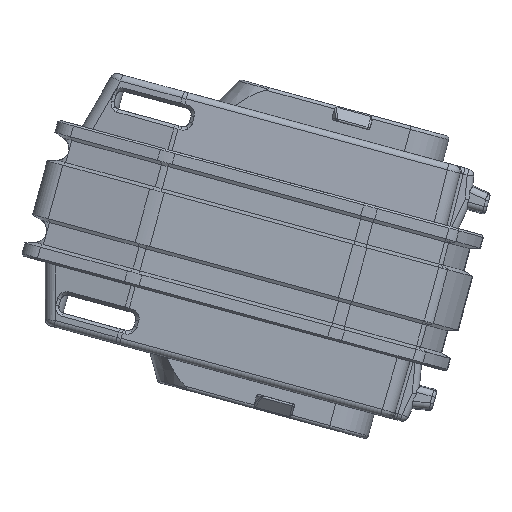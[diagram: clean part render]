
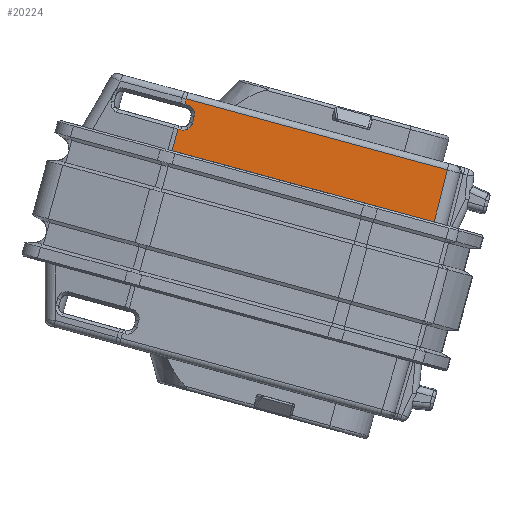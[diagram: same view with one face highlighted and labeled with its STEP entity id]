
A CAD part, front view. The second image highlights one B-rep face of the part: STEP entity #20224.
In plain terms, the highlighted planar face has unit normal (0.005, -1, 0.017).
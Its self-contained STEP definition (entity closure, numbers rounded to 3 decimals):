
#1754=PLANE('',#21533);
#2496=FACE_OUTER_BOUND('',#3774,.T.);
#3774=EDGE_LOOP('',(#15098,#15099,#15100,#15101,#15102,#15103,#15104,#15105,
#15106,#15107,#15108,#15109,#15110,#15111));
#4881=LINE('',#37546,#6433);
#4901=LINE('',#38521,#6453);
#5170=LINE('',#41165,#6722);
#5171=LINE('',#41167,#6723);
#5172=LINE('',#41169,#6724);
#5173=LINE('',#41170,#6725);
#6433=VECTOR('',#23353,10.);
#6453=VECTOR('',#23381,10.);
#6722=VECTOR('',#24256,10.);
#6723=VECTOR('',#24257,1000.);
#6724=VECTOR('',#24258,1000.);
#6725=VECTOR('',#24259,1000.);
#8137=B_SPLINE_CURVE_WITH_KNOTS('',3,(#37335,#37336,#37337,#37338,#37339,
#37340,#37341,#37342),.UNSPECIFIED.,.F.,.F.,(4,2,2,4),(0.076,
0.077,0.114,0.152),.UNSPECIFIED.);
#8143=B_SPLINE_CURVE_WITH_KNOTS('',3,(#37480,#37481,#37482,#37483),
 .UNSPECIFIED.,.F.,.F.,(4,4),(0.152,0.153),
 .UNSPECIFIED.);
#8147=B_SPLINE_CURVE_WITH_KNOTS('',3,(#37536,#37537,#37538,#37539,#37540,
#37541,#37542,#37543),.UNSPECIFIED.,.F.,.F.,(4,2,2,4),(0.076,
0.077,0.114,0.152),.UNSPECIFIED.);
#8148=B_SPLINE_CURVE_WITH_KNOTS('',3,(#37578,#37579,#37580,#37581,#37582,
#37583),.UNSPECIFIED.,.F.,.F.,(4,2,4),(0.,0.022,
0.044),.UNSPECIFIED.);
#8151=B_SPLINE_CURVE_WITH_KNOTS('',3,(#37637,#37638,#37639,#37640,#37641,
#37642,#37643,#37644,#37645),.UNSPECIFIED.,.F.,.F.,(4,1,1,1,1,1,4),(0.,
0.003,0.005,0.011,0.022,
0.033,0.076),.UNSPECIFIED.);
#8165=B_SPLINE_CURVE_WITH_KNOTS('',3,(#38349,#38350,#38351,#38352,#38353,
#38354),.UNSPECIFIED.,.F.,.F.,(4,2,4),(0.001,0.038,
0.076),.UNSPECIFIED.);
#8166=B_SPLINE_CURVE_WITH_KNOTS('',3,(#38381,#38382,#38383,#38384,#38385,
#38386),.UNSPECIFIED.,.F.,.F.,(4,2,4),(-0.044,-0.022,
0.),.UNSPECIFIED.);
#8168=B_SPLINE_CURVE_WITH_KNOTS('',3,(#38407,#38408,#38409,#38410),
 .UNSPECIFIED.,.F.,.F.,(4,4),(0.,0.001),
 .UNSPECIFIED.);
#8711=VERTEX_POINT('',#37328);
#8713=VERTEX_POINT('',#37334);
#8717=VERTEX_POINT('',#37473);
#8719=VERTEX_POINT('',#37479);
#8722=VERTEX_POINT('',#37531);
#8723=VERTEX_POINT('',#37545);
#8726=VERTEX_POINT('',#37575);
#8727=VERTEX_POINT('',#37577);
#8738=VERTEX_POINT('',#38347);
#8739=VERTEX_POINT('',#38379);
#8745=VERTEX_POINT('',#38520);
#9160=VERTEX_POINT('',#41164);
#9161=VERTEX_POINT('',#41166);
#9162=VERTEX_POINT('',#41168);
#10756=EDGE_CURVE('',#8711,#8713,#8137,.T.);
#10765=EDGE_CURVE('',#8717,#8719,#8143,.T.);
#10770=EDGE_CURVE('',#8722,#8717,#8147,.T.);
#10771=EDGE_CURVE('',#8719,#8723,#4881,.T.);
#10775=EDGE_CURVE('',#8726,#8727,#8148,.T.);
#10779=EDGE_CURVE('',#8727,#8722,#8151,.T.);
#10799=EDGE_CURVE('',#8738,#8711,#8165,.T.);
#10801=EDGE_CURVE('',#8713,#8739,#8166,.T.);
#10803=EDGE_CURVE('',#8723,#8738,#8168,.T.);
#10815=EDGE_CURVE('',#8745,#8739,#4901,.T.);
#11334=EDGE_CURVE('',#8726,#9160,#5170,.T.);
#11335=EDGE_CURVE('',#9161,#9160,#5171,.T.);
#11336=EDGE_CURVE('',#9161,#9162,#5172,.T.);
#11337=EDGE_CURVE('',#9162,#8745,#5173,.T.);
#15098=ORIENTED_EDGE('',*,*,#10775,.F.);
#15099=ORIENTED_EDGE('',*,*,#11334,.T.);
#15100=ORIENTED_EDGE('',*,*,#11335,.F.);
#15101=ORIENTED_EDGE('',*,*,#11336,.T.);
#15102=ORIENTED_EDGE('',*,*,#11337,.T.);
#15103=ORIENTED_EDGE('',*,*,#10815,.T.);
#15104=ORIENTED_EDGE('',*,*,#10801,.F.);
#15105=ORIENTED_EDGE('',*,*,#10756,.F.);
#15106=ORIENTED_EDGE('',*,*,#10799,.F.);
#15107=ORIENTED_EDGE('',*,*,#10803,.F.);
#15108=ORIENTED_EDGE('',*,*,#10771,.F.);
#15109=ORIENTED_EDGE('',*,*,#10765,.F.);
#15110=ORIENTED_EDGE('',*,*,#10770,.F.);
#15111=ORIENTED_EDGE('',*,*,#10779,.F.);
#20224=ADVANCED_FACE('',(#2496),#1754,.T.);
#21533=AXIS2_PLACEMENT_3D('',#41163,#24254,#24255);
#23353=DIRECTION('',(0.262,0.017,0.965));
#23381=DIRECTION('',(-0.264,-0.017,-0.964));
#24254=DIRECTION('center_axis',(0.005,-1.,
0.017));
#24255=DIRECTION('ref_axis',(0.,-0.017,-1.));
#24256=DIRECTION('',(-0.264,-0.017,-0.964));
#24257=DIRECTION('',(-0.965,0.,0.262));
#24258=DIRECTION('',(0.245,0.017,0.969));
#24259=DIRECTION('',(-0.965,0.,0.262));
#37328=CARTESIAN_POINT('',(-2.585,-8.979,-175.599));
#37334=CARTESIAN_POINT('',(-3.466,-8.972,-174.917));
#37335=CARTESIAN_POINT('Ctrl Pts',(-2.585,-8.979,
-175.599));
#37336=CARTESIAN_POINT('Ctrl Pts',(-2.586,-8.979,
-175.596));
#37337=CARTESIAN_POINT('Ctrl Pts',(-2.588,-8.979,
-175.594));
#37338=CARTESIAN_POINT('Ctrl Pts',(-2.679,-8.977,
-175.435));
#37339=CARTESIAN_POINT('Ctrl Pts',(-2.801,-8.975,
-175.287));
#37340=CARTESIAN_POINT('Ctrl Pts',(-3.113,-8.972,
-175.046));
#37341=CARTESIAN_POINT('Ctrl Pts',(-3.29,-8.972,
-174.965));
#37342=CARTESIAN_POINT('Ctrl Pts',(-3.466,-8.972,
-174.917));
#37473=CARTESIAN_POINT('',(-2.706,-9.014,-177.668));
#37479=CARTESIAN_POINT('',(-2.704,-9.014,-177.66));
#37480=CARTESIAN_POINT('Ctrl Pts',(-2.706,-9.014,-177.668));
#37481=CARTESIAN_POINT('Ctrl Pts',(-2.705,-9.014,
-177.665));
#37482=CARTESIAN_POINT('Ctrl Pts',(-2.704,-9.014,
-177.662));
#37483=CARTESIAN_POINT('Ctrl Pts',(-2.704,-9.014,
-177.66));
#37531=CARTESIAN_POINT('',(-3.388,-9.032,-178.55));
#37536=CARTESIAN_POINT('Ctrl Pts',(-3.388,-9.032,
-178.55));
#37537=CARTESIAN_POINT('Ctrl Pts',(-3.385,-9.032,
-178.548));
#37538=CARTESIAN_POINT('Ctrl Pts',(-3.383,-9.032,
-178.547));
#37539=CARTESIAN_POINT('Ctrl Pts',(-3.224,-9.03,
-178.455));
#37540=CARTESIAN_POINT('Ctrl Pts',(-3.076,-9.027,
-178.333));
#37541=CARTESIAN_POINT('Ctrl Pts',(-2.835,-9.021,
-178.021));
#37542=CARTESIAN_POINT('Ctrl Pts',(-2.754,-9.018,
-177.845));
#37543=CARTESIAN_POINT('Ctrl Pts',(-2.706,-9.014,-177.668));
#37545=CARTESIAN_POINT('',(-2.444,-8.997,-176.703));
#37546=CARTESIAN_POINT('',(-3.176,-9.046,-179.397));
#37575=CARTESIAN_POINT('',(-4.918,-9.04,-178.575));
#37577=CARTESIAN_POINT('',(-4.493,-9.04,-178.691));
#37578=CARTESIAN_POINT('Ctrl Pts',(-4.918,-9.04,
-178.575));
#37579=CARTESIAN_POINT('Ctrl Pts',(-4.847,-9.04,
-178.594));
#37580=CARTESIAN_POINT('Ctrl Pts',(-4.776,-9.04,
-178.614));
#37581=CARTESIAN_POINT('Ctrl Pts',(-4.635,-9.04,
-178.652));
#37582=CARTESIAN_POINT('Ctrl Pts',(-4.564,-9.04,-178.672));
#37583=CARTESIAN_POINT('Ctrl Pts',(-4.493,-9.04,
-178.691));
#37637=CARTESIAN_POINT('Ctrl Pts',(-4.493,-9.04,
-178.69));
#37638=CARTESIAN_POINT('Ctrl Pts',(-4.484,-9.04,
-178.693));
#37639=CARTESIAN_POINT('Ctrl Pts',(-4.457,-9.04,
-178.7));
#37640=CARTESIAN_POINT('Ctrl Pts',(-4.407,-9.04,
-178.712));
#37641=CARTESIAN_POINT('Ctrl Pts',(-4.314,-9.04,
-178.73));
#37642=CARTESIAN_POINT('Ctrl Pts',(-4.181,-9.039,
-178.744));
#37643=CARTESIAN_POINT('Ctrl Pts',(-3.843,-9.038,
-178.744));
#37644=CARTESIAN_POINT('Ctrl Pts',(-3.569,-9.035,-178.653));
#37645=CARTESIAN_POINT('Ctrl Pts',(-3.388,-9.032,
-178.55));
#38347=CARTESIAN_POINT('',(-2.44,-8.997,-176.691));
#38349=CARTESIAN_POINT('Ctrl Pts',(-2.44,-8.997,
-176.691));
#38350=CARTESIAN_POINT('Ctrl Pts',(-2.395,-8.994,
-176.517));
#38351=CARTESIAN_POINT('Ctrl Pts',(-2.377,-8.99,
-176.329));
#38352=CARTESIAN_POINT('Ctrl Pts',(-2.427,-8.984,
-175.939));
#38353=CARTESIAN_POINT('Ctrl Pts',(-2.494,-8.981,
-175.757));
#38354=CARTESIAN_POINT('Ctrl Pts',(-2.585,-8.979,
-175.599));
#38379=CARTESIAN_POINT('',(-3.885,-8.972,-174.803));
#38381=CARTESIAN_POINT('Ctrl Pts',(-3.466,-8.972,
-174.916));
#38382=CARTESIAN_POINT('Ctrl Pts',(-3.536,-8.972,-174.897));
#38383=CARTESIAN_POINT('Ctrl Pts',(-3.607,-8.972,-174.878));
#38384=CARTESIAN_POINT('Ctrl Pts',(-3.746,-8.972,
-174.841));
#38385=CARTESIAN_POINT('Ctrl Pts',(-3.815,-8.972,
-174.822));
#38386=CARTESIAN_POINT('Ctrl Pts',(-3.885,-8.972,
-174.803));
#38407=CARTESIAN_POINT('Ctrl Pts',(-2.444,-8.997,
-176.703));
#38408=CARTESIAN_POINT('Ctrl Pts',(-2.442,-8.997,-176.699));
#38409=CARTESIAN_POINT('Ctrl Pts',(-2.441,-8.997,-176.695));
#38410=CARTESIAN_POINT('Ctrl Pts',(-2.44,-8.997,
-176.691));
#38520=CARTESIAN_POINT('',(-3.656,-8.957,-173.97));
#38521=CARTESIAN_POINT('',(-3.656,-8.957,-173.97));
#41163=CARTESIAN_POINT('Origin',(9.326,-9.1,-186.015));
#41164=CARTESIAN_POINT('',(-5.827,-9.1,-181.896));
#41165=CARTESIAN_POINT('',(-4.786,-9.031,-178.093));
#41166=CARTESIAN_POINT('',(34.241,-9.1,-192.788));
#41167=CARTESIAN_POINT('',(9.326,-9.1,-186.015));
#41168=CARTESIAN_POINT('',(36.258,-8.957,-184.821));
#41169=CARTESIAN_POINT('',(36.491,-8.94,-183.902));
#41170=CARTESIAN_POINT('',(-3.655,-8.957,-173.971));
